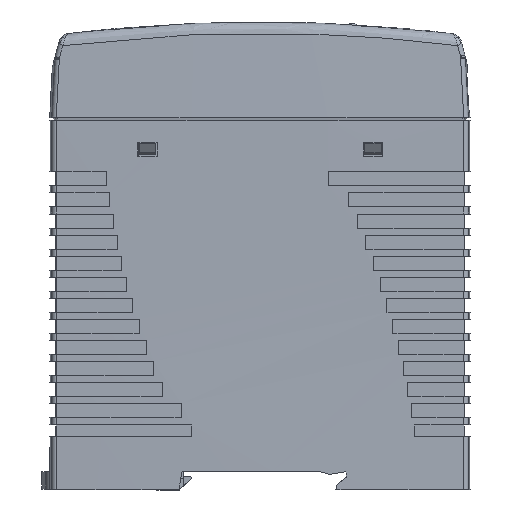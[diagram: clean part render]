
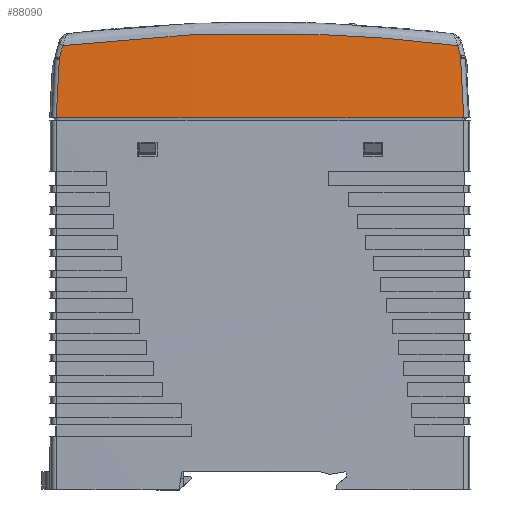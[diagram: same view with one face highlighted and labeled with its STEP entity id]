
A CAD part, left-side view. The second image highlights one B-rep face of the part: STEP entity #88090.
In plain terms, the highlighted conical face has half-angle 2 degrees and reference radius 2024.92 mm.
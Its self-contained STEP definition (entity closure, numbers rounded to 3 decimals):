
#79990=CARTESIAN_POINT('',(-26.728,42.956,52.95)
);
#80000=VERTEX_POINT('',#79990);
#80030=CARTESIAN_POINT('',(-26.732,42.958,52.823
));
#80040=CARTESIAN_POINT('',(-26.73,42.955,52.872)
);
#80050=CARTESIAN_POINT('',(-26.729,42.958,52.908
));
#80060=CARTESIAN_POINT('',(-26.728,42.956,52.95)
);
#80070=B_SPLINE_CURVE_WITH_KNOTS('',3,(#80030,#80040,#80050,#80060),
.UNSPECIFIED.,.F.,.F.,(4,4),(0.,1.),.UNSPECIFIED.);
#80080=CARTESIAN_POINT('',(-26.732,42.958,52.823
));
#80090=VERTEX_POINT('',#80080);
#80100=EDGE_CURVE('',#80090,#80000,#80070,.T.);
#80800=CARTESIAN_POINT('',(-26.725,42.952,53.021)
);
#80810=VERTEX_POINT('',#80800);
#80860=CARTESIAN_POINT('',(-26.728,42.956,52.95)
);
#80870=CARTESIAN_POINT('',(-26.727,42.955,52.974
));
#80880=CARTESIAN_POINT('',(-26.726,42.955,52.993)
);
#80890=CARTESIAN_POINT('',(-26.725,42.952,53.021)
);
#80900=B_SPLINE_CURVE_WITH_KNOTS('',3,(#80860,#80870,#80880,#80890),
.UNSPECIFIED.,.F.,.F.,(4,4),(0.,1.),.UNSPECIFIED.);
#80910=EDGE_CURVE('',#80000,#80810,#80900,.T.);
#85150=CARTESIAN_POINT('',(1997.61,0.05,40.353));
#85160=DIRECTION('',(0.,0.,-1.));
#85170=DIRECTION('',(-1.,-0.022,0.));
#85180=AXIS2_PLACEMENT_3D('',#85150,#85160,#85170);
#85190=CIRCLE('',#85180,2025.233);
#85200=CARTESIAN_POINT('',(-27.154,-43.498,
40.353));
#85210=VERTEX_POINT('',#85200);
#85220=CARTESIAN_POINT('',(-27.154,43.598,40.353)
);
#85230=VERTEX_POINT('',#85220);
#85240=EDGE_CURVE('',#85210,#85230,#85190,.T.);
#86810=CARTESIAN_POINT('',(-27.154,43.598,40.353)
);
#86820=CARTESIAN_POINT('',(-27.107,43.526,41.748
));
#86830=CARTESIAN_POINT('',(-27.013,43.384,44.531
));
#86840=CARTESIAN_POINT('',(-26.872,43.17,48.688
));
#86850=CARTESIAN_POINT('',(-26.779,43.028,51.447
));
#86860=CARTESIAN_POINT('',(-26.732,42.958,52.823
));
#86870=B_SPLINE_CURVE_WITH_KNOTS('',3,(#86810,#86820,#86830,#86840,
#86850,#86860),.UNSPECIFIED.,.F.,.F.,(4,1,1,4),(0.,0.333,
0.667,1.),.UNSPECIFIED.);
#86880=EDGE_CURVE('',#85230,#80090,#86870,.T.);
#86950=CARTESIAN_POINT('',(1997.61,0.05,49.416));
#86960=DIRECTION('',(0.,0.,-1.));
#86970=DIRECTION('',(-1.,0.,0.));
#86980=AXIS2_PLACEMENT_3D('',#86950,#86960,#86970);
#86990=CONICAL_SURFACE('',#86980,2024.916,0.035);
#87000=ORIENTED_EDGE('',*,*,#86880,.F.);
#87010=ORIENTED_EDGE('',*,*,#80100,.F.);
#87020=ORIENTED_EDGE('',*,*,#80910,.F.);
#87030=CARTESIAN_POINT('',(-26.725,42.952,53.021)
);
#87040=CARTESIAN_POINT('',(-26.724,42.948,53.05
));
#87050=CARTESIAN_POINT('',(-26.722,42.939,53.117)
);
#87060=CARTESIAN_POINT('',(-26.72,42.924,53.185
));
#87070=CARTESIAN_POINT('',(-26.719,42.915,53.223
));
#87080=B_SPLINE_CURVE_WITH_KNOTS('',3,(#87030,#87040,#87050,#87060,
#87070),.UNSPECIFIED.,.F.,.F.,(4,1,4),(0.,0.432,1.),
.UNSPECIFIED.);
#87090=CARTESIAN_POINT('',(-26.719,42.915,53.223
));
#87100=VERTEX_POINT('',#87090);
#87110=EDGE_CURVE('',#80810,#87100,#87080,.T.);
#87120=ORIENTED_EDGE('',*,*,#87110,.F.);
#87130=CARTESIAN_POINT('',(-26.719,42.915,53.223
));
#87140=CARTESIAN_POINT('',(-26.711,42.839,53.508));
#87150=CARTESIAN_POINT('',(-26.694,42.686,54.078)
);
#87160=CARTESIAN_POINT('',(-26.669,42.458,54.933
));
#87170=CARTESIAN_POINT('',(-26.652,42.306,55.503
));
#87180=CARTESIAN_POINT('',(-26.644,42.23,55.788
));
#87190=B_SPLINE_CURVE_WITH_KNOTS('',3,(#87130,#87140,#87150,#87160,
#87170,#87180),.UNSPECIFIED.,.F.,.F.,(4,1,1,4),(0.,0.333,
0.667,1.),.UNSPECIFIED.);
#87200=CARTESIAN_POINT('',(-26.644,42.23,55.788
));
#87210=VERTEX_POINT('',#87200);
#87220=EDGE_CURVE('',#87100,#87210,#87190,.T.);
#87230=ORIENTED_EDGE('',*,*,#87220,.F.);
#87240=CARTESIAN_POINT('',(-26.644,42.23,55.788
));
#87250=CARTESIAN_POINT('',(-26.758,35.234,56.673)
);
#87260=CARTESIAN_POINT('',(-26.888,24.696,57.67
));
#87270=CARTESIAN_POINT('',(-26.976,10.597,58.336))
;
#87280=CARTESIAN_POINT('',(-26.998,0.001,
58.503));
#87290=CARTESIAN_POINT('',(-26.975,-10.593,58.337
));
#87300=CARTESIAN_POINT('',(-26.887,-24.684,57.672
));
#87310=CARTESIAN_POINT('',(-26.757,-35.217,56.676
));
#87320=CARTESIAN_POINT('',(-26.642,-42.209,
55.793));
#87330=B_SPLINE_CURVE_WITH_KNOTS('',3,(#87240,#87250,#87260,#87270,
#87280,#87290,#87300,#87310,#87320),.UNSPECIFIED.,.F.,.F.,(4,1,1,1,1,1,4
),(0.,0.25,0.375,0.5,0.625,
0.75,1.),.UNSPECIFIED.);
#87340=CARTESIAN_POINT('',(-26.642,-42.209,
55.793));
#87350=VERTEX_POINT('',#87340);
#87360=EDGE_CURVE('',#87210,#87350,#87330,.T.);
#87370=ORIENTED_EDGE('',*,*,#87360,.F.);
#87380=CARTESIAN_POINT('',(-26.642,-42.209,
55.793));
#87390=CARTESIAN_POINT('',(-26.648,-42.266,55.573)
);
#87400=CARTESIAN_POINT('',(-26.661,-42.38,
55.133));
#87410=CARTESIAN_POINT('',(-26.681,-42.55,54.474
));
#87420=CARTESIAN_POINT('',(-26.694,-42.664,54.034
));
#87430=CARTESIAN_POINT('',(-26.7,-42.72,
53.815));
#87440=B_SPLINE_CURVE_WITH_KNOTS('',3,(#87380,#87390,#87400,#87410,
#87420,#87430),.UNSPECIFIED.,.F.,.F.,(4,1,1,4),(0.,0.333,
0.667,1.),.UNSPECIFIED.);
#87450=CARTESIAN_POINT('',(-26.7,-42.72,
53.815));
#87460=VERTEX_POINT('',#87450);
#87470=EDGE_CURVE('',#87350,#87460,#87440,.T.);
#87480=ORIENTED_EDGE('',*,*,#87470,.F.);
#87490=CARTESIAN_POINT('',(-26.7,-42.72,
53.815));
#87500=CARTESIAN_POINT('',(-26.702,-42.736,
53.753));
#87510=CARTESIAN_POINT('',(-26.704,-42.752,53.692
));
#87520=CARTESIAN_POINT('',(-26.706,-42.768,
53.631));
#87530=B_SPLINE_CURVE_WITH_KNOTS('',3,(#87490,#87500,#87510,#87520),
.UNSPECIFIED.,.F.,.F.,(4,4),(0.,1.),.UNSPECIFIED.);
#87540=CARTESIAN_POINT('',(-26.706,-42.768,
53.631));
#87550=VERTEX_POINT('',#87540);
#87560=EDGE_CURVE('',#87460,#87550,#87530,.T.);
#87570=ORIENTED_EDGE('',*,*,#87560,.F.);
#87580=CARTESIAN_POINT('',(-26.706,-42.768,
53.631));
#87590=CARTESIAN_POINT('',(-26.706,-42.772,53.616)
);
#87600=CARTESIAN_POINT('',(-26.707,-42.779,
53.586));
#87610=CARTESIAN_POINT('',(-26.708,-42.791,53.542
));
#87620=CARTESIAN_POINT('',(-26.709,-42.798,
53.512));
#87630=CARTESIAN_POINT('',(-26.71,-42.802,
53.498));
#87640=B_SPLINE_CURVE_WITH_KNOTS('',3,(#87580,#87590,#87600,#87610,
#87620,#87630),.UNSPECIFIED.,.F.,.F.,(4,1,1,4),(0.,0.333,
0.667,1.),.UNSPECIFIED.);
#87650=CARTESIAN_POINT('',(-26.71,-42.802,
53.498));
#87660=VERTEX_POINT('',#87650);
#87670=EDGE_CURVE('',#87550,#87660,#87640,.T.);
#87680=ORIENTED_EDGE('',*,*,#87670,.F.);
#87690=CARTESIAN_POINT('',(-26.71,-42.802,
53.498));
#87700=CARTESIAN_POINT('',(-26.71,-42.807,53.479
));
#87710=CARTESIAN_POINT('',(-26.711,-42.815,
53.442));
#87720=CARTESIAN_POINT('',(-26.713,-42.824,
53.391));
#87730=CARTESIAN_POINT('',(-26.714,-42.829,
53.355));
#87740=CARTESIAN_POINT('',(-26.715,-42.832,
53.334));
#87750=CARTESIAN_POINT('',(-26.715,-42.834,53.324
));
#87760=CARTESIAN_POINT('',(-26.715,-42.835,53.313
));
#87770=CARTESIAN_POINT('',(-26.716,-42.836,
53.303));
#87780=CARTESIAN_POINT('',(-26.716,-42.837,
53.293));
#87790=CARTESIAN_POINT('',(-26.716,-42.838,
53.281));
#87800=CARTESIAN_POINT('',(-26.717,-42.84,
53.261));
#87810=CARTESIAN_POINT('',(-26.718,-42.84,
53.245));
#87820=CARTESIAN_POINT('',(-26.718,-42.841,
53.234));
#87830=B_SPLINE_CURVE_WITH_KNOTS('',3,(#87690,#87700,#87710,#87720,
#87730,#87740,#87750,#87760,#87770,#87780,#87790,#87800,#87810,#87820),
.UNSPECIFIED.,.F.,.F.,(4,1,1,1,1,1,1,1,1,1,1,4),(0.,0.199,
0.398,0.55,0.588,0.626,
0.664,0.701,0.739,0.776,
0.851,1.),.UNSPECIFIED.);
#87840=CARTESIAN_POINT('',(-26.718,-42.841,
53.234));
#87850=VERTEX_POINT('',#87840);
#87860=EDGE_CURVE('',#87660,#87850,#87830,.T.);
#87870=ORIENTED_EDGE('',*,*,#87860,.F.);
#87880=CARTESIAN_POINT('',(-26.718,-42.841,
53.234));
#87890=CARTESIAN_POINT('',(-26.719,-42.843,53.193
));
#87900=CARTESIAN_POINT('',(-26.721,-42.841,
53.158));
#87910=CARTESIAN_POINT('',(-26.722,-42.843,53.111)
);
#87920=B_SPLINE_CURVE_WITH_KNOTS('',3,(#87880,#87890,#87900,#87910),
.UNSPECIFIED.,.F.,.F.,(4,4),(0.,1.),.UNSPECIFIED.);
#87930=CARTESIAN_POINT('',(-26.722,-42.843,53.111)
);
#87940=VERTEX_POINT('',#87930);
#87950=EDGE_CURVE('',#87850,#87940,#87920,.T.);
#87960=ORIENTED_EDGE('',*,*,#87950,.F.);
#87970=CARTESIAN_POINT('',(-26.722,-42.843,53.111)
);
#87980=CARTESIAN_POINT('',(-26.77,-42.916,
51.687));
#87990=CARTESIAN_POINT('',(-26.867,-43.062,
48.843));
#88000=CARTESIAN_POINT('',(-27.011,-43.28,44.59)
);
#88010=CARTESIAN_POINT('',(-27.106,-43.425,
41.764));
#88020=CARTESIAN_POINT('',(-27.154,-43.498,
40.353));
#88030=B_SPLINE_CURVE_WITH_KNOTS('',3,(#87970,#87980,#87990,#88000,
#88010,#88020),.UNSPECIFIED.,.F.,.F.,(4,1,1,4),(0.,0.333,
0.667,1.),.UNSPECIFIED.);
#88040=EDGE_CURVE('',#87940,#85210,#88030,.T.);
#88050=ORIENTED_EDGE('',*,*,#88040,.F.);
#88060=ORIENTED_EDGE('',*,*,#85240,.F.);
#88070=EDGE_LOOP('',(#88060,#88050,#87960,#87870,#87680,#87570,#87480,
#87370,#87230,#87120,#87020,#87010,#87000));
#88080=FACE_OUTER_BOUND('',#88070,.T.);
#88090=ADVANCED_FACE('',(#88080),#86990,.T.);
